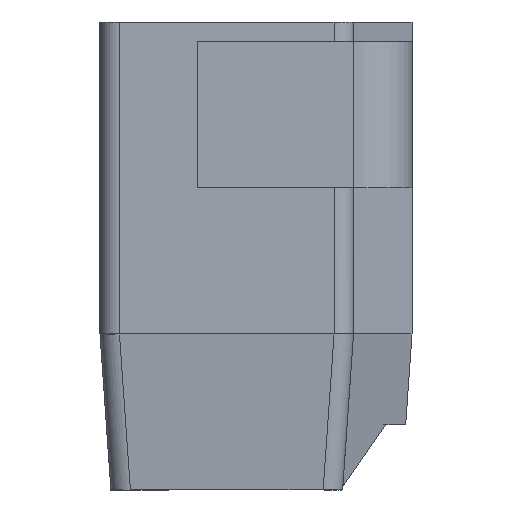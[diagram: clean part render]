
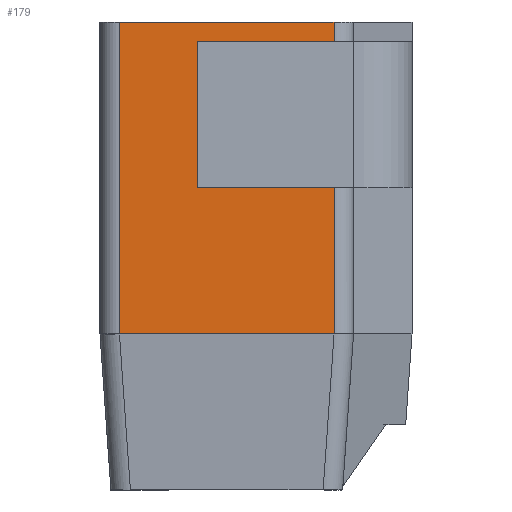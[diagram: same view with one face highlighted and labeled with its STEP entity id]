
A CAD part, left-side view. The second image highlights one B-rep face of the part: STEP entity #179.
In plain terms, the highlighted planar face has unit normal (-1, 0, 0).
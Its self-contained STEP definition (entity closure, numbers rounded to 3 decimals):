
#179 = ADVANCED_FACE ( 'NONE', ( #3193 ), #4958, .T. ) ;
#230 = VECTOR ( 'NONE', #5662, 1000. ) ;
#310 = CARTESIAN_POINT ( 'NONE',  ( -1.25, -0.2, 0.4 ) ) ;
#367 = VERTEX_POINT ( 'NONE', #3469 ) ;
#481 = CARTESIAN_POINT ( 'NONE',  ( -1.25, 0.167, 0.4 ) ) ;
#751 = CARTESIAN_POINT ( 'NONE',  ( -1.25, 0.35, 0.4 ) ) ;
#851 = DIRECTION ( 'NONE',  ( 0., -1., 0. ) ) ;
#937 = EDGE_CURVE ( 'NONE', #367, #4561, #3238, .T. ) ;
#1014 = DIRECTION ( 'NONE',  ( 0., -1., 0. ) ) ;
#1127 = VERTEX_POINT ( 'NONE', #4957 ) ;
#1335 = EDGE_CURVE ( 'NONE', #5614, #4561, #3576, .T. ) ;
#2262 = CARTESIAN_POINT ( 'NONE',  ( -1.25, -0.2, 0.4 ) ) ;
#2343 = EDGE_CURVE ( 'NONE', #1127, #367, #5125, .T. ) ;
#2700 = CARTESIAN_POINT ( 'NONE',  ( -1.25, 0.35, 0.4 ) ) ;
#2732 = CARTESIAN_POINT ( 'NONE',  ( -1.25, -0.2, 0.4 ) ) ;
#2856 = CARTESIAN_POINT ( 'NONE',  ( -1.25, -2.098, 0.4 ) ) ;
#3193 = FACE_OUTER_BOUND ( 'NONE', #4216, .T. ) ;
#3238 = B_SPLINE_CURVE_WITH_KNOTS ( 'NONE', 3,
 ( #2700, #481, #3490, #2262 ),
 .UNSPECIFIED., .F., .F.,
 ( 4, 4 ),
 ( 0., 1. ),
 .UNSPECIFIED. ) ;
#3304 = VECTOR ( 'NONE', #4891, 1000. ) ;
#3465 = AXIS2_PLACEMENT_3D ( 'NONE', #2856, #4655, #1014 ) ;
#3469 = CARTESIAN_POINT ( 'NONE',  ( -1.25, 0.35, 0.4 ) ) ;
#3487 = ORIENTED_EDGE ( 'NONE', *, *, #937, .F. ) ;
#3490 = CARTESIAN_POINT ( 'NONE',  ( -1.25, -0.017, 0.4 ) ) ;
#3576 = LINE ( 'NONE', #2732, #3304 ) ;
#3820 = EDGE_CURVE ( 'NONE', #1127, #5614, #5649, .T. ) ;
#3892 = VECTOR ( 'NONE', #851, 1000. ) ;
#3904 = ORIENTED_EDGE ( 'NONE', *, *, #3820, .T. ) ;
#3945 = CARTESIAN_POINT ( 'NONE',  ( -1.25, -2.098, -0.4 ) ) ;
#4216 = EDGE_LOOP ( 'NONE', ( #3487, #5653, #3904, #5719 ) ) ;
#4561 = VERTEX_POINT ( 'NONE', #310 ) ;
#4655 = DIRECTION ( 'NONE',  ( -1., 0., 0. ) ) ;
#4891 = DIRECTION ( 'NONE',  ( 0., 0., 1. ) ) ;
#4957 = CARTESIAN_POINT ( 'NONE',  ( -1.25, 0.35, -0.4 ) ) ;
#4958 = PLANE ( 'NONE',  #3465 ) ;
#5076 = CARTESIAN_POINT ( 'NONE',  ( -1.25, -0.2, -0.4 ) ) ;
#5125 = LINE ( 'NONE', #751, #230 ) ;
#5614 = VERTEX_POINT ( 'NONE', #5076 ) ;
#5649 = LINE ( 'NONE', #3945, #3892 ) ;
#5653 = ORIENTED_EDGE ( 'NONE', *, *, #2343, .F. ) ;
#5662 = DIRECTION ( 'NONE',  ( 0., 0., 1. ) ) ;
#5719 = ORIENTED_EDGE ( 'NONE', *, *, #1335, .T. ) ;
